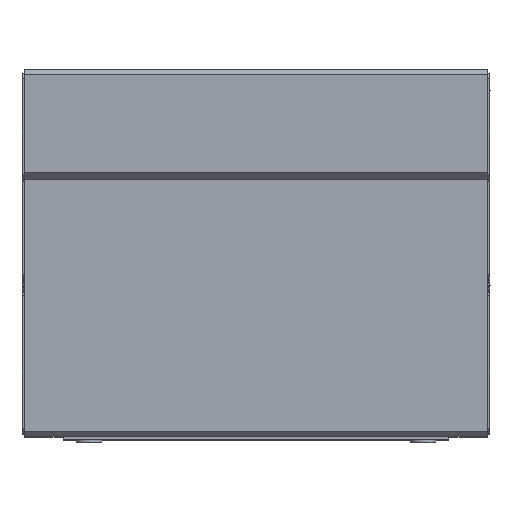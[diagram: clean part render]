
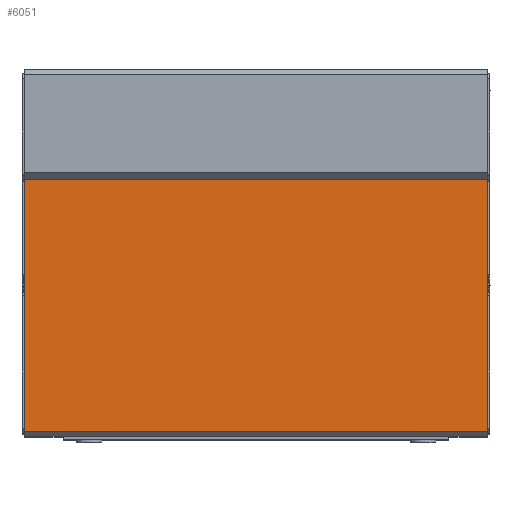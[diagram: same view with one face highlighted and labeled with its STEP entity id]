
A CAD part, top view. The second image highlights one B-rep face of the part: STEP entity #6051.
In plain terms, the highlighted planar face has unit normal (0, 0, 1).
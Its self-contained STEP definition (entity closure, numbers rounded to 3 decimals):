
#16 = ORIENTED_EDGE ( 'NONE', *, *, #5509, .T. ) ;
#180 = ORIENTED_EDGE ( 'NONE', *, *, #2974, .T. ) ;
#353 = CARTESIAN_POINT ( 'NONE',  ( 45., 20.5, 43.5 ) ) ;
#418 = DIRECTION ( 'NONE',  ( -1., 0., 0. ) ) ;
#1021 = EDGE_LOOP ( 'NONE', ( #180, #5771, #5817, #16 ) ) ;
#1185 = VECTOR ( 'NONE', #4187, 1000. ) ;
#1225 = DIRECTION ( 'NONE',  ( -1., 0., 0. ) ) ;
#1249 = CARTESIAN_POINT ( 'NONE',  ( 45., -28.4, 43.5 ) ) ;
#1360 = CARTESIAN_POINT ( 'NONE',  ( 45., -28.4, 43.5 ) ) ;
#1676 = VERTEX_POINT ( 'NONE', #7683 ) ;
#1720 = CARTESIAN_POINT ( 'NONE',  ( -45., 20.5, 43.5 ) ) ;
#1889 = LINE ( 'NONE', #4014, #5778 ) ;
#2939 = VERTEX_POINT ( 'NONE', #1249 ) ;
#2974 = EDGE_CURVE ( 'NONE', #7949, #1676, #9016, .T. ) ;
#3267 = AXIS2_PLACEMENT_3D ( 'NONE', #353, #8175, #418 ) ;
#3342 = VECTOR ( 'NONE', #4287, 1000. ) ;
#3707 = DIRECTION ( 'NONE',  ( 0., -1., 0. ) ) ;
#3995 = PLANE ( 'NONE',  #3267 ) ;
#4014 = CARTESIAN_POINT ( 'NONE',  ( 45., 20.5, 43.5 ) ) ;
#4187 = DIRECTION ( 'NONE',  ( -1., 0., 0. ) ) ;
#4287 = DIRECTION ( 'NONE',  ( 0., -1., 0. ) ) ;
#5343 = CARTESIAN_POINT ( 'NONE',  ( 45., 20.5, 43.5 ) ) ;
#5509 = EDGE_CURVE ( 'NONE', #7455, #7949, #1889, .T. ) ;
#5737 = VECTOR ( 'NONE', #3707, 1000. ) ;
#5771 = ORIENTED_EDGE ( 'NONE', *, *, #8615, .F. ) ;
#5778 = VECTOR ( 'NONE', #1225, 1000. ) ;
#5817 = ORIENTED_EDGE ( 'NONE', *, *, #7229, .F. ) ;
#6051 = ADVANCED_FACE ( 'NONE', ( #7772 ), #3995, .F. ) ;
#6382 = CARTESIAN_POINT ( 'NONE',  ( -45., 20.5, 43.5 ) ) ;
#7229 = EDGE_CURVE ( 'NONE', #7455, #2939, #7634, .T. ) ;
#7455 = VERTEX_POINT ( 'NONE', #5343 ) ;
#7634 = LINE ( 'NONE', #7961, #5737 ) ;
#7683 = CARTESIAN_POINT ( 'NONE',  ( -45., -28.4, 43.5 ) ) ;
#7772 = FACE_OUTER_BOUND ( 'NONE', #1021, .T. ) ;
#7949 = VERTEX_POINT ( 'NONE', #1720 ) ;
#7961 = CARTESIAN_POINT ( 'NONE',  ( 45., 20.5, 43.5 ) ) ;
#8175 = DIRECTION ( 'NONE',  ( 0., 0., -1. ) ) ;
#8615 = EDGE_CURVE ( 'NONE', #2939, #1676, #8765, .T. ) ;
#8765 = LINE ( 'NONE', #1360, #1185 ) ;
#9016 = LINE ( 'NONE', #6382, #3342 ) ;
